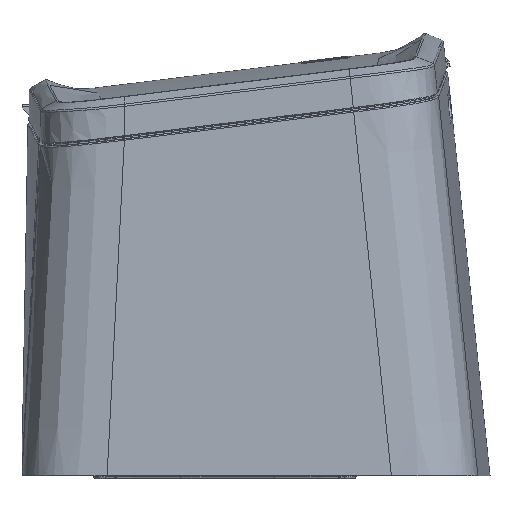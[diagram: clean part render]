
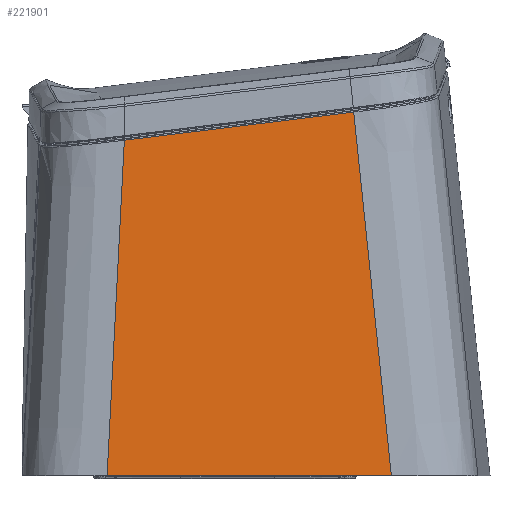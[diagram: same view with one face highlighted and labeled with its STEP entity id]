
A CAD part, left-side view. The second image highlights one B-rep face of the part: STEP entity #221901.
In plain terms, the highlighted planar face has unit normal (-0.999, 0.006, 0.052).
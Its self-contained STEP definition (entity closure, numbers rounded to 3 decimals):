
#4784 = AXIS2_PLACEMENT_3D ( 'NONE', #290166, #165605, #67278 ) ;
#11788 = CARTESIAN_POINT ( 'NONE',  ( -176.062, 30.975, -1.55 ) ) ;
#13072 = CARTESIAN_POINT ( 'NONE',  ( -172.432, -23.904, 72.239 ) ) ;
#14218 = B_SPLINE_CURVE_WITH_KNOTS ( 'NONE', 3,
 ( #32192, #132164, #109168, #61636 ),
 .UNSPECIFIED., .F., .F.,
 ( 4, 4 ),
 ( 0., 1. ),
 .UNSPECIFIED. ) ;
#32192 = CARTESIAN_POINT ( 'NONE',  ( -172.432, 24.311, 68.444 ) ) ;
#61636 = CARTESIAN_POINT ( 'NONE',  ( -176.062, 30.975, -1.55 ) ) ;
#61827 = B_SPLINE_CURVE_WITH_KNOTS ( 'NONE', 3,
 ( #252097, #306068, #127564, #181518 ),
 .UNSPECIFIED., .F., .F.,
 ( 4, 4 ),
 ( 0., 1. ),
 .UNSPECIFIED. ) ;
#65974 = LINE ( 'NONE', #241299, #127932 ) ;
#67278 = DIRECTION ( 'NONE',  ( 0.004, 1., 0. ) ) ;
#70971 = EDGE_CURVE ( 'NONE', #129116, #154414, #61827, .T. ) ;
#78312 = EDGE_CURVE ( 'NONE', #211521, #154414, #271578, .T. ) ;
#96709 = EDGE_LOOP ( 'NONE', ( #101643, #156616, #208813, #201620 ) ) ;
#101643 = ORIENTED_EDGE ( 'NONE', *, *, #127127, .T. ) ;
#109168 = CARTESIAN_POINT ( 'NONE',  ( -174.852, 28.752, 21.781 ) ) ;
#127127 = EDGE_CURVE ( 'NONE', #176574, #211521, #14218, .T. ) ;
#127564 = CARTESIAN_POINT ( 'NONE',  ( -175.105, -26.937, 21.316 ) ) ;
#127932 = VECTOR ( 'NONE', #210211, 1000. ) ;
#129116 = VERTEX_POINT ( 'NONE', #13072 ) ;
#132164 = CARTESIAN_POINT ( 'NONE',  ( -173.642, 26.531, 45.112 ) ) ;
#142658 = FACE_OUTER_BOUND ( 'NONE', #96709, .T. ) ;
#150279 = DIRECTION ( 'NONE',  ( -0.006, -0.999, -0.044 ) ) ;
#154414 = VERTEX_POINT ( 'NONE', #320480 ) ;
#156616 = ORIENTED_EDGE ( 'NONE', *, *, #78312, .T. ) ;
#165605 = DIRECTION ( 'NONE',  ( -0.999, 0.004, 0.052 ) ) ;
#176574 = VERTEX_POINT ( 'NONE', #184171 ) ;
#181518 = CARTESIAN_POINT ( 'NONE',  ( -176.442, -28.452, -4.145 ) ) ;
#184171 = CARTESIAN_POINT ( 'NONE',  ( -172.432, 24.311, 68.444 ) ) ;
#201620 = ORIENTED_EDGE ( 'NONE', *, *, #259566, .T. ) ;
#208813 = ORIENTED_EDGE ( 'NONE', *, *, #70971, .F. ) ;
#210211 = DIRECTION ( 'NONE',  ( 0., 0.997, -0.078 ) ) ;
#211521 = VERTEX_POINT ( 'NONE', #11788 ) ;
#216385 = PLANE ( 'NONE',  #4784 ) ;
#221901 = ADVANCED_FACE ( 'NONE', ( #142658 ), #216385, .T. ) ;
#241299 = CARTESIAN_POINT ( 'NONE',  ( -172.432, -23.904, 72.239 ) ) ;
#252097 = CARTESIAN_POINT ( 'NONE',  ( -172.432, -23.904, 72.239 ) ) ;
#259566 = EDGE_CURVE ( 'NONE', #129116, #176574, #65974, .T. ) ;
#271578 = LINE ( 'NONE', #294554, #286112 ) ;
#286112 = VECTOR ( 'NONE', #150279, 1000. ) ;
#290166 = CARTESIAN_POINT ( 'NONE',  ( -171.667, 54.654, 80.709 ) ) ;
#294554 = CARTESIAN_POINT ( 'NONE',  ( -176.062, 30.975, -1.55 ) ) ;
#306068 = CARTESIAN_POINT ( 'NONE',  ( -173.769, -25.421, 46.777 ) ) ;
#320480 = CARTESIAN_POINT ( 'NONE',  ( -176.442, -28.452, -4.145 ) ) ;
